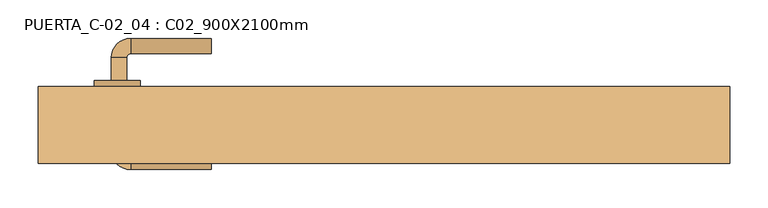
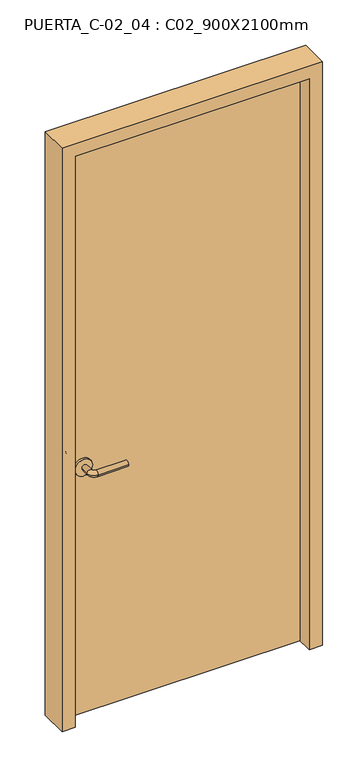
"""IFC4 building model written with IfcOpenShell, lengths in millimetres: door geometry, PUERTA_C-02_04 : C02_900X2100mm."""

from ifc_helpers import new_model, si_unit, point, frame, frame_2d, origin, origin_with_axes, place, context, project, spatial, polyline, circle_curve, ellipse_curve, trimmed, segment, composite_curve, outline, extrude, faceted_brep, source, transform, mapped, element, save
from ifc_brep_helpers import plane_surface, cylinder_surface, revolved_surface, advanced_brep


def puerta_c_02_04_c02_900x2100mm_8723c3b4(model_context):
    return source(origin(), model_context, "Body", "SolidModel", [
        advanced_brep(
        [(-354.990625, 13.35, 900.0), (-334.990625, 13.35, 900.0), (-334.990625, -16.65, 900.0), (-354.990625, -16.65, 900.0), (-329.990625, -21.65, 900.0), (-329.990625, -41.65, 900.0), (-224.990625, -41.65, 900.0), (-224.990625, -21.65, 900.0)],
        [
            (0, 1, circle_curve(frame((-344.990625, 13.35, 900.0), z_axis=(0.0, 1.0, 0.0), x_axis=(1.0, 0.0, 0.0)), 10.0)),
            (1, 0, circle_curve(frame((-344.990625, 13.35, 900.0), z_axis=(0.0, 1.0, 0.0), x_axis=(1.0, 0.0, 0.0)), 10.0)),
            (1, 2),
            (2, 3, circle_curve(frame((-344.990625, -16.65, 900.0), z_axis=(0.0, 1.0, 0.0), x_axis=(1.0, 0.0, 0.0)), 10.0)),
            (3, 0),
            (3, 2, circle_curve(frame((-344.990625, -16.65, 900.0), z_axis=(0.0, 1.0, 0.0), x_axis=(1.0, 0.0, 0.0)), 10.0)),
            (4, 5, circle_curve(frame((-329.990625, -31.65, 900.0), z_axis=(-1.0, 0.0, 0.0), x_axis=(0.0, 1.0, 0.0)), 10.0)),
            (5, 3, circle_curve(frame((-329.990625, -16.65, 900.0), z_axis=(0.0, 0.0, -1.0), x_axis=(-1.0, 0.0, 0.0)), 25.0)),
            (2, 4, circle_curve(frame((-329.990625, -16.65, 900.0), z_axis=(0.0, 0.0, 1.0), x_axis=(-1.0, 0.0, 0.0)), 5.0)),
            (5, 4, circle_curve(frame((-329.990625, -31.65, 900.0), z_axis=(-1.0, 0.0, 0.0), x_axis=(0.0, 1.0, 0.0)), 10.0)),
            (6, 7, circle_curve(frame((-224.990625, -31.65, 900.0), z_axis=(1.0, 0.0, 0.0), x_axis=(0.0, 1.0, 0.0)), 10.0)),
            (7, 6, circle_curve(frame((-224.990625, -31.65, 900.0), z_axis=(1.0, 0.0, 0.0), x_axis=(0.0, 1.0, 0.0)), 10.0)),
            (4, 7),
            (6, 5),
        ],
        [
            plane_surface(frame((-344.990625, 13.35, 900.0), z_axis=(0.0, 1.0, 0.0), x_axis=(0.0, 0.0, 1.0))),
            cylinder_surface(frame((-344.990625, 13.35, 900.0), z_axis=(0.0, 1.0, 0.0), x_axis=(1.0, 0.0, 0.0)), 10.0),
            revolved_surface(trimmed(ellipse_curve(frame((-344.990625, -16.65, 900.0), z_axis=(0.0, -1.0, 0.0), x_axis=(1.0, 0.0, 0.0)), 10.0, 10.0), [point((-354.990625, -16.65, 900.0))], [point((-334.990625, -16.65, 900.0))], True, "CARTESIAN"), (-329.990625, -16.65, 900.0), (0.0, 0.0, -1.0)),
            revolved_surface(trimmed(ellipse_curve(frame((-344.990625, -16.65, 900.0), z_axis=(0.0, -1.0, 0.0), x_axis=(1.0, 0.0, 0.0)), 10.0, 10.0), [point((-334.990625, -16.65, 900.0))], [point((-354.990625, -16.65, 900.0))], True, "CARTESIAN"), (-329.990625, -16.65, 900.0), (0.0, 0.0, -1.0)),
            plane_surface(frame((-224.990625, -31.65, 900.0), z_axis=(1.0, 0.0, 0.0), x_axis=(0.0, 0.0, 1.0))),
            cylinder_surface(frame((-329.990625, -31.65, 900.0), z_axis=(-1.0, 0.0, 0.0), x_axis=(0.0, 1.0, 0.0)), 10.0),
        ],
        [
            (0, [[1, 2]]),
            (1, [[3, 4, 5, -2]]),
            (1, [[-5, 6, -3, -1]]),
            (2, [[7, 8, -4, 9]]),
            (3, [[10, -9, -6, -8]]),
            (4, [[11, 12]]),
            (5, [[13, -11, 14, -7]]),
            (5, [[-14, -12, -13, -10]]),
        ],
    ),
        extrude(outline(composite_curve([segment(trimmed(circle_curve(frame_2d((900.0, -347.490625)), 30.0), [point((900.0, -377.490625))], [point((900.0, -317.490625))], False, "CARTESIAN"), True, "CONTINUOUS"), segment(trimmed(circle_curve(frame_2d((900.0, -347.490625)), 30.0), [point((900.0, -317.490625))], [point((900.0, -377.490625))], False, "CARTESIAN"), True, "CONTINUOUS")], self_intersect=False)), frame((0.0, 13.35, 0.0), z_axis=(0.0, 1.0, 0.0), x_axis=(0.0, 0.0, 1.0)), (0.0, 0.0, 1.0), 8.0),
        advanced_brep(
        [(-354.990625, 74.35, 900.0), (-334.990625, 74.35, 900.0), (-354.990625, 104.35, 900.0), (-334.990625, 104.35, 900.0), (-329.990625, 109.35, 900.0), (-329.990625, 129.35, 900.0), (-224.990625, 129.35, 900.0), (-224.990625, 109.35, 900.0)],
        [
            (0, 1, circle_curve(frame((-344.990625, 74.35, 900.0), z_axis=(0.0, -1.0, 0.0), x_axis=(1.0, 0.0, 0.0)), 10.0)),
            (1, 0, circle_curve(frame((-344.990625, 74.35, 900.0), z_axis=(0.0, -1.0, 0.0), x_axis=(1.0, 0.0, 0.0)), 10.0)),
            (0, 2),
            (2, 3, circle_curve(frame((-344.990625, 104.35, 900.0), z_axis=(0.0, -1.0, 0.0), x_axis=(1.0, 0.0, 0.0)), 10.0)),
            (3, 1),
            (3, 2, circle_curve(frame((-344.990625, 104.35, 900.0), z_axis=(0.0, -1.0, 0.0), x_axis=(1.0, 0.0, 0.0)), 10.0)),
            (4, 3, circle_curve(frame((-329.990625, 104.35, 900.0), z_axis=(0.0, 0.0, 1.0), x_axis=(-1.0, 0.0, 0.0)), 5.0)),
            (2, 5, circle_curve(frame((-329.990625, 104.35, 900.0), z_axis=(0.0, 0.0, -1.0), x_axis=(-1.0, 0.0, 0.0)), 25.0)),
            (5, 4, circle_curve(frame((-329.990625, 119.35, 900.0), z_axis=(-1.0, 0.0, 0.0), x_axis=(0.0, -1.0, 0.0)), 10.0)),
            (4, 5, circle_curve(frame((-329.990625, 119.35, 900.0), z_axis=(-1.0, 0.0, 0.0), x_axis=(0.0, -1.0, 0.0)), 10.0)),
            (6, 7, circle_curve(frame((-224.990625, 119.35, 900.0), z_axis=(1.0, 0.0, 0.0), x_axis=(0.0, -1.0, 0.0)), 10.0)),
            (7, 6, circle_curve(frame((-224.990625, 119.35, 900.0), z_axis=(1.0, 0.0, 0.0), x_axis=(0.0, -1.0, 0.0)), 10.0)),
            (5, 6),
            (7, 4),
        ],
        [
            plane_surface(frame((-344.990625, 74.35, 900.0), z_axis=(0.0, -1.0, 0.0), x_axis=(0.0, 0.0, 1.0))),
            cylinder_surface(frame((-344.990625, 74.35, 900.0), z_axis=(0.0, -1.0, 0.0), x_axis=(1.0, 0.0, 0.0)), 10.0),
            revolved_surface(trimmed(ellipse_curve(frame((-344.990625, 104.35, 900.0), z_axis=(0.0, -1.0, 0.0), x_axis=(1.0, 0.0, 0.0)), 10.0, 10.0), [point((-354.990625, 104.35, 900.0))], [point((-334.990625, 104.35, 900.0))], True, "CARTESIAN"), (-329.990625, 104.35, 900.0), (0.0, 0.0, -1.0)),
            revolved_surface(trimmed(ellipse_curve(frame((-344.990625, 104.35, 900.0), z_axis=(0.0, -1.0, 0.0), x_axis=(1.0, 0.0, 0.0)), 10.0, 10.0), [point((-334.990625, 104.35, 900.0))], [point((-354.990625, 104.35, 900.0))], True, "CARTESIAN"), (-329.990625, 104.35, 900.0), (0.0, 0.0, -1.0)),
            plane_surface(frame((-224.990625, 119.35, 900.0), z_axis=(1.0, 0.0, 0.0), x_axis=(0.0, 0.0, 1.0))),
            cylinder_surface(frame((-329.990625, 119.35, 900.0), z_axis=(-1.0, 0.0, 0.0), x_axis=(0.0, -1.0, 0.0)), 10.0),
        ],
        [
            (0, [[1, 2]]),
            (1, [[-1, 3, 4, 5]]),
            (1, [[-2, -5, 6, -3]]),
            (2, [[7, -4, 8, 9]]),
            (3, [[-8, -6, -7, 10]]),
            (4, [[11, 12]]),
            (5, [[-9, 13, -12, 14]]),
            (5, [[-10, -14, -11, -13]]),
        ],
    ),
        extrude(outline(composite_curve([segment(trimmed(circle_curve(frame_2d((900.0, -347.490625)), 30.0), [point((900.0, -377.490625))], [point((900.0, -317.490625))], False, "CARTESIAN"), True, "CONTINUOUS"), segment(trimmed(circle_curve(frame_2d((900.0, -347.490625)), 30.0), [point((900.0, -317.490625))], [point((900.0, -377.490625))], False, "CARTESIAN"), True, "CONTINUOUS")], self_intersect=False)), frame((0.0, 66.35, 0.0), z_axis=(0.0, 1.0, 0.0), x_axis=(0.0, 0.0, 1.0)), (0.0, 0.0, 1.0), 8.0),
        faceted_brep([(420.0, 33.1875, 0.0), (420.0, 66.35, 0.0), (450.0, 66.35, 0.0), (450.0, -33.65, 0.0), (404.125, -33.65, 0.0), (404.125, 33.1875, 0.0), (420.0, 33.1875, 2100.0), (420.0, 66.35, 2100.0), (-420.0, 66.35, 2100.0), (-420.0, 66.35, 0.0), (-450.0, 66.35, 0.0), (-450.0, 66.35, 2130.0), (450.0, 66.35, 2130.0), (450.0, -33.65, 2130.0), (-450.0, -33.65, 2130.0), (-450.0, -33.65, 0.0), (-404.125, -33.65, 0.0), (-404.125, -33.65, 2084.125), (404.125, -33.65, 2084.125), (404.125, 33.1875, 2084.125), (-404.125, 33.1875, 2084.125), (-404.125, 33.1875, 0.0), (-420.0, 33.1875, 0.0), (-420.0, 33.1875, 2100.0)], [[[0, 1, 2, 3, 4, 5]], [[1, 0, 6, 7]], [[2, 1, 7, 8, 9, 10, 11, 12]], [[3, 2, 12, 13]], [[4, 3, 13, 14, 15, 16, 17, 18]], [[5, 4, 18, 19]], [[0, 5, 19, 20, 21, 22, 23, 6]], [[7, 6, 23, 8]], [[13, 12, 11, 14]], [[19, 18, 17, 20]], [[22, 21, 16, 15, 10, 9]], [[8, 23, 22, 9]], [[14, 11, 10, 15]], [[20, 17, 16, 21]]]),
        extrude(outline(polyline([(420.0, 21.35), (-420.0, 21.35), (-420.0, 66.35), (420.0, 66.35), (420.0, 21.35)])), origin_with_axes(), (0.0, 0.0, 1.0), 2100.0),
    ])


if __name__ == "__main__":
    model = new_model("IFC4")
    model_context = context("Model", 3, world=origin())
    ifc_project = project(units=[si_unit("LENGTHUNIT", "METRE", prefix="MILLI")], contexts=[model_context])
    site = spatial("IfcSite", under=ifc_project)
    building = spatial("IfcBuilding", under=site)
    placement = place(None, origin())
    puerta_c_02_04_c02_900x2100mm_shape = puerta_c_02_04_c02_900x2100mm_8723c3b4(model_context)
    element("IfcDoor", 1, ObjectType="PUERTA_C-02_04 : C02_900X2100mm", at=placement, inside=building, context=model_context, shape_type="MappedRepresentation", body=[
        mapped(puerta_c_02_04_c02_900x2100mm_shape, transform((0.0, 0.0, 0.0), x_axis=(1.0, 0.0, 0.0), y_axis=(0.0, 1.0, 0.0), z_axis=(0.0, 0.0, 1.0))),
    ])
    save(model, "model.ifc")
